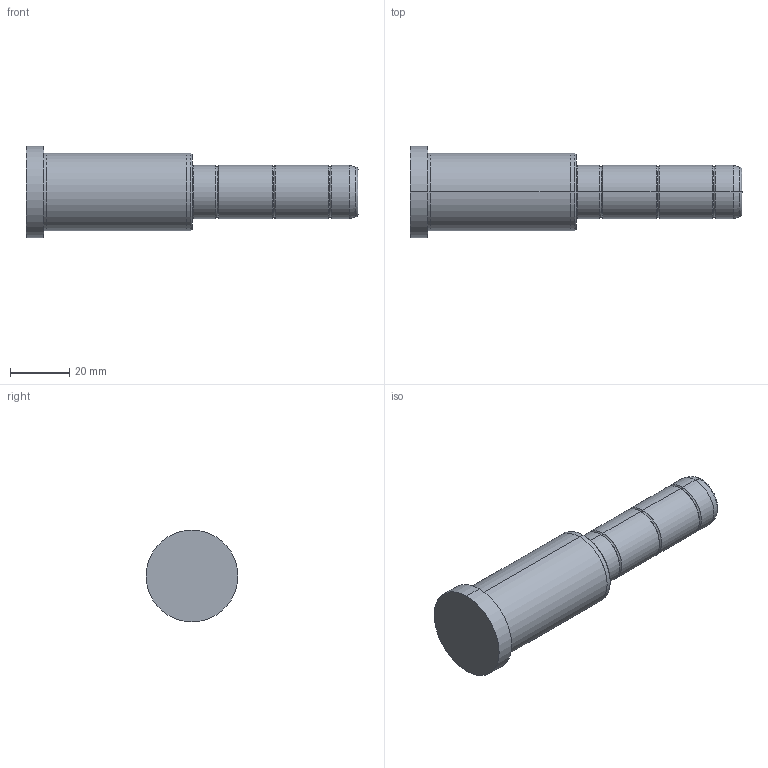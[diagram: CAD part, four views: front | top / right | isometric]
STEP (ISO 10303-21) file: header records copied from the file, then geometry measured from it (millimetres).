
FILE_DESCRIPTION( ( 'STEP AP203' ), '1' );
FILE_NAME( 'C:/Projects/D02 - 18x56x56.step', '2003-01-04T13:33:13', ( ' ' ), ( ' ' ), 'XStep 1.0', ' ', ' ' );
FILE_SCHEMA( ( 'CONFIG_CONTROL_DESIGN' ) );
Length unit declared in the file: metre
Products named in the file (1): 1
Bounding box: 112 x 31 x 31 mm (x, y, z)
Volume: 45219.8 mm3; surface area: 9343.2 mm2
Topology: 1 solids, 1 shells, 42 faces, 82 edges, 46 vertices
Faces by surface type: bspline 22, revolution 20
Entity records: 1325 total; most frequent: CARTESIAN_POINT 517, ORIENTED_EDGE 164, DIRECTION 134, EDGE_CURVE 82, AXIS2_PLACEMENT_3D 47, EDGE_LOOP 46, VERTEX_POINT 46, CIRCLE 46
